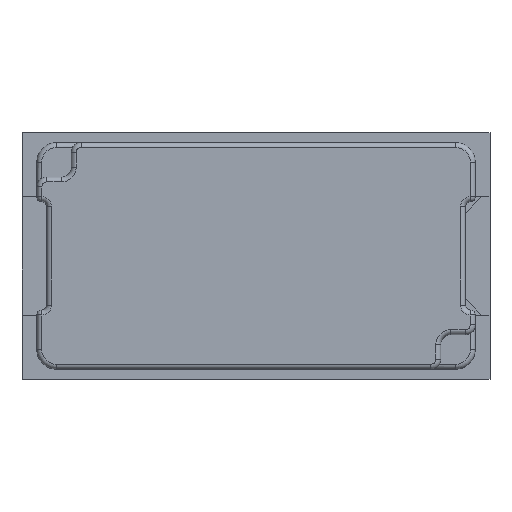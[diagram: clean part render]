
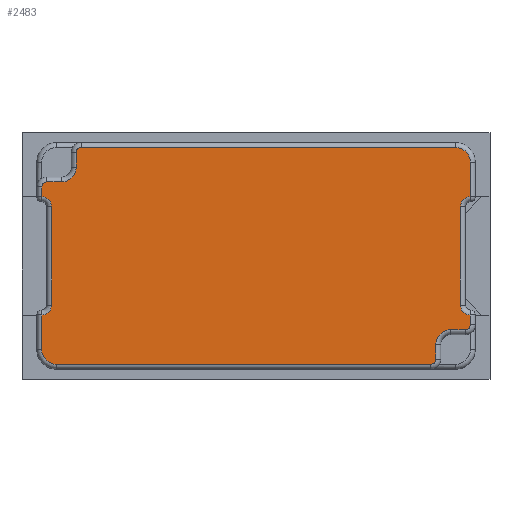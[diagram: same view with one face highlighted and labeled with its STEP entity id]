
A CAD part, top view. The second image highlights one B-rep face of the part: STEP entity #2483.
In plain terms, the highlighted planar face has unit normal (0, 0, 1).
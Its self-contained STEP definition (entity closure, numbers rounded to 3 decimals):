
#106=CIRCLE('',#2585,0.2);
#111=CIRCLE('',#2593,0.1);
#114=CIRCLE('',#2598,0.3);
#117=CIRCLE('',#2603,0.1);
#120=CIRCLE('',#2608,0.3);
#124=CIRCLE('',#2615,0.2);
#128=CIRCLE('',#2624,0.2);
#133=CIRCLE('',#2630,0.1);
#147=CIRCLE('',#2654,0.3);
#150=CIRCLE('',#2659,0.1);
#153=CIRCLE('',#2664,0.3);
#156=CIRCLE('',#2670,0.2);
#493=ORIENTED_EDGE('',*,*,#888,.T.);
#494=ORIENTED_EDGE('',*,*,#887,.T.);
#495=ORIENTED_EDGE('',*,*,#885,.T.);
#496=ORIENTED_EDGE('',*,*,#882,.T.);
#497=ORIENTED_EDGE('',*,*,#880,.T.);
#498=ORIENTED_EDGE('',*,*,#878,.T.);
#499=ORIENTED_EDGE('',*,*,#892,.T.);
#500=ORIENTED_EDGE('',*,*,#851,.T.);
#501=ORIENTED_EDGE('',*,*,#852,.T.);
#502=ORIENTED_EDGE('',*,*,#846,.F.);
#503=ORIENTED_EDGE('',*,*,#844,.F.);
#504=ORIENTED_EDGE('',*,*,#838,.F.);
#505=ORIENTED_EDGE('',*,*,#834,.T.);
#506=ORIENTED_EDGE('',*,*,#833,.T.);
#507=ORIENTED_EDGE('',*,*,#831,.T.);
#508=ORIENTED_EDGE('',*,*,#829,.T.);
#509=ORIENTED_EDGE('',*,*,#827,.T.);
#510=ORIENTED_EDGE('',*,*,#825,.T.);
#511=ORIENTED_EDGE('',*,*,#823,.T.);
#512=ORIENTED_EDGE('',*,*,#821,.T.);
#513=ORIENTED_EDGE('',*,*,#818,.T.);
#514=ORIENTED_EDGE('',*,*,#815,.T.);
#515=ORIENTED_EDGE('',*,*,#814,.T.);
#516=ORIENTED_EDGE('',*,*,#891,.T.);
#814=EDGE_CURVE('',#1038,#1040,#1202,.T.);
#815=EDGE_CURVE('',#1041,#1038,#106,.T.);
#818=EDGE_CURVE('',#1042,#1041,#1203,.T.);
#821=EDGE_CURVE('',#1043,#1042,#111,.T.);
#823=EDGE_CURVE('',#1044,#1043,#1204,.T.);
#825=EDGE_CURVE('',#1045,#1044,#114,.T.);
#827=EDGE_CURVE('',#1046,#1045,#1205,.T.);
#829=EDGE_CURVE('',#1047,#1046,#117,.T.);
#831=EDGE_CURVE('',#1048,#1047,#1206,.T.);
#833=EDGE_CURVE('',#1049,#1048,#120,.T.);
#834=EDGE_CURVE('',#1050,#1049,#1207,.T.);
#838=EDGE_CURVE('',#1050,#1052,#124,.T.);
#844=EDGE_CURVE('',#1052,#1054,#1211,.T.);
#846=EDGE_CURVE('',#1054,#1055,#128,.T.);
#851=EDGE_CURVE('',#1056,#1059,#133,.T.);
#852=EDGE_CURVE('',#1059,#1055,#1212,.T.);
#878=EDGE_CURVE('',#1074,#1075,#147,.T.);
#880=EDGE_CURVE('',#1076,#1074,#1224,.T.);
#882=EDGE_CURVE('',#1077,#1076,#150,.T.);
#885=EDGE_CURVE('',#1078,#1077,#1226,.T.);
#887=EDGE_CURVE('',#1079,#1078,#153,.T.);
#888=EDGE_CURVE('',#1080,#1079,#1227,.T.);
#891=EDGE_CURVE('',#1040,#1080,#156,.T.);
#892=EDGE_CURVE('',#1075,#1056,#1228,.T.);
#1038=VERTEX_POINT('',#3530);
#1040=VERTEX_POINT('',#3534);
#1041=VERTEX_POINT('',#3538);
#1042=VERTEX_POINT('',#3544);
#1043=VERTEX_POINT('',#3548);
#1044=VERTEX_POINT('',#3552);
#1045=VERTEX_POINT('',#3556);
#1046=VERTEX_POINT('',#3560);
#1047=VERTEX_POINT('',#3564);
#1048=VERTEX_POINT('',#3568);
#1049=VERTEX_POINT('',#3572);
#1050=VERTEX_POINT('',#3576);
#1052=VERTEX_POINT('',#3584);
#1054=VERTEX_POINT('',#3596);
#1055=VERTEX_POINT('',#3600);
#1056=VERTEX_POINT('',#3604);
#1059=VERTEX_POINT('',#3609);
#1074=VERTEX_POINT('',#3670);
#1075=VERTEX_POINT('',#3672);
#1076=VERTEX_POINT('',#3676);
#1077=VERTEX_POINT('',#3680);
#1078=VERTEX_POINT('',#3684);
#1079=VERTEX_POINT('',#3689);
#1080=VERTEX_POINT('',#3693);
#1202=LINE('',#3535,#1376);
#1203=LINE('',#3543,#1377);
#1204=LINE('',#3553,#1378);
#1205=LINE('',#3561,#1379);
#1206=LINE('',#3569,#1380);
#1207=LINE('',#3575,#1381);
#1211=LINE('',#3595,#1385);
#1212=LINE('',#3612,#1386);
#1224=LINE('',#3677,#1398);
#1226=LINE('',#3686,#1400);
#1227=LINE('',#3692,#1401);
#1228=LINE('',#3700,#1402);
#1376=VECTOR('',#2935,1000.);
#1377=VECTOR('',#2948,1000.);
#1378=VECTOR('',#2961,1000.);
#1379=VECTOR('',#2972,1000.);
#1380=VECTOR('',#2983,1000.);
#1381=VECTOR('',#2992,1000.);
#1385=VECTOR('',#3020,1000.);
#1386=VECTOR('',#3041,1000.);
#1398=VECTOR('',#3103,1000.);
#1400=VECTOR('',#3115,1000.);
#1401=VECTOR('',#3124,1000.);
#1402=VECTOR('',#3137,1000.);
#1513=EDGE_LOOP('',(#493,#494,#495,#496,#497,#498,#499,#500,#501,#502,#503,
#504,#505,#506,#507,#508,#509,#510,#511,#512,#513,#514,#515,#516));
#1615=FACE_BOUND('',#1513,.T.);
#1669=PLANE('',#2671);
#2483=ADVANCED_FACE('',(#1615),#1669,.F.);
#2585=AXIS2_PLACEMENT_3D('',#3537,#2938,#2939);
#2593=AXIS2_PLACEMENT_3D('',#3549,#2955,#2956);
#2598=AXIS2_PLACEMENT_3D('',#3557,#2966,#2967);
#2603=AXIS2_PLACEMENT_3D('',#3565,#2977,#2978);
#2608=AXIS2_PLACEMENT_3D('',#3573,#2988,#2989);
#2615=AXIS2_PLACEMENT_3D('',#3583,#3003,#3004);
#2624=AXIS2_PLACEMENT_3D('',#3599,#3025,#3026);
#2630=AXIS2_PLACEMENT_3D('',#3610,#3037,#3038);
#2654=AXIS2_PLACEMENT_3D('',#3673,#3097,#3098);
#2659=AXIS2_PLACEMENT_3D('',#3681,#3108,#3109);
#2664=AXIS2_PLACEMENT_3D('',#3690,#3120,#3121);
#2670=AXIS2_PLACEMENT_3D('',#3698,#3133,#3134);
#2671=AXIS2_PLACEMENT_3D('',#3699,#3135,#3136);
#2935=DIRECTION('',(0.,1.,0.));
#2938=DIRECTION('',(0.,0.,-1.));
#2939=DIRECTION('',(0.,-1.,0.));
#2948=DIRECTION('',(0.,1.,0.));
#2955=DIRECTION('',(0.,0.,1.));
#2956=DIRECTION('',(0.,-1.,0.));
#2961=DIRECTION('',(1.,0.,0.));
#2966=DIRECTION('',(0.,0.,-1.));
#2967=DIRECTION('',(-1.,0.,0.));
#2972=DIRECTION('',(0.,1.,0.));
#2977=DIRECTION('',(0.,0.,1.));
#2978=DIRECTION('',(0.,-1.,0.));
#2983=DIRECTION('',(1.,0.,0.));
#2988=DIRECTION('',(0.,0.,1.));
#2989=DIRECTION('',(-1.,0.,0.));
#2992=DIRECTION('',(0.,-1.,0.));
#3003=DIRECTION('',(0.,0.,1.));
#3004=DIRECTION('',(0.,-1.,0.));
#3020=DIRECTION('',(0.,1.,0.));
#3025=DIRECTION('',(0.,0.,1.));
#3026=DIRECTION('',(1.,0.,0.));
#3037=DIRECTION('',(0.,0.,1.));
#3038=DIRECTION('',(0.,1.,0.));
#3041=DIRECTION('',(0.,-1.,0.));
#3097=DIRECTION('',(0.,0.,-1.));
#3098=DIRECTION('',(1.,0.,0.));
#3103=DIRECTION('',(0.,-1.,0.));
#3108=DIRECTION('',(0.,0.,1.));
#3109=DIRECTION('',(0.,1.,0.));
#3115=DIRECTION('',(-1.,0.,0.));
#3120=DIRECTION('',(0.,0.,1.));
#3121=DIRECTION('',(1.,0.,0.));
#3124=DIRECTION('',(0.,1.,0.));
#3133=DIRECTION('',(0.,0.,-1.));
#3134=DIRECTION('',(-1.,0.,0.));
#3135=DIRECTION('',(0.,0.,-1.));
#3136=DIRECTION('',(-1.,0.,0.));
#3137=DIRECTION('',(-1.,0.,0.));
#3530=CARTESIAN_POINT('',(4.15,-1.,1.7));
#3534=CARTESIAN_POINT('',(4.15,1.,1.7));
#3535=CARTESIAN_POINT('',(4.15,-1.,1.7));
#3537=CARTESIAN_POINT('',(4.35,-1.,1.7));
#3538=CARTESIAN_POINT('',(4.35,-1.2,1.7));
#3543=CARTESIAN_POINT('',(4.35,-1.4,1.7));
#3544=CARTESIAN_POINT('',(4.35,-1.4,1.7));
#3548=CARTESIAN_POINT('',(4.25,-1.5,1.7));
#3549=CARTESIAN_POINT('',(4.25,-1.4,1.7));
#3552=CARTESIAN_POINT('',(3.95,-1.5,1.7));
#3553=CARTESIAN_POINT('',(3.95,-1.5,1.7));
#3556=CARTESIAN_POINT('',(3.65,-1.8,1.7));
#3557=CARTESIAN_POINT('',(3.95,-1.8,1.7));
#3560=CARTESIAN_POINT('',(3.65,-2.1,1.7));
#3561=CARTESIAN_POINT('',(3.65,-2.1,1.7));
#3564=CARTESIAN_POINT('',(3.55,-2.2,1.7));
#3565=CARTESIAN_POINT('',(3.55,-2.1,1.7));
#3568=CARTESIAN_POINT('',(-4.05,-2.2,1.7));
#3569=CARTESIAN_POINT('',(-4.05,-2.2,1.7));
#3572=CARTESIAN_POINT('',(-4.35,-1.9,1.7));
#3573=CARTESIAN_POINT('',(-4.05,-1.9,1.7));
#3575=CARTESIAN_POINT('',(-4.35,-1.2,1.7));
#3576=CARTESIAN_POINT('',(-4.35,-1.2,1.7));
#3583=CARTESIAN_POINT('',(-4.35,-1.,1.7));
#3584=CARTESIAN_POINT('',(-4.15,-1.,1.7));
#3595=CARTESIAN_POINT('',(-4.15,-1.,1.7));
#3596=CARTESIAN_POINT('',(-4.15,1.,1.7));
#3599=CARTESIAN_POINT('',(-4.35,1.,1.7));
#3600=CARTESIAN_POINT('',(-4.35,1.2,1.7));
#3604=CARTESIAN_POINT('',(-4.25,1.5,1.7));
#3609=CARTESIAN_POINT('',(-4.35,1.4,1.7));
#3610=CARTESIAN_POINT('',(-4.25,1.4,1.7));
#3612=CARTESIAN_POINT('',(-4.35,1.4,1.7));
#3670=CARTESIAN_POINT('',(-3.65,1.8,1.7));
#3672=CARTESIAN_POINT('',(-3.95,1.5,1.7));
#3673=CARTESIAN_POINT('',(-3.95,1.8,1.7));
#3676=CARTESIAN_POINT('',(-3.65,2.1,1.7));
#3677=CARTESIAN_POINT('',(-3.65,2.1,1.7));
#3680=CARTESIAN_POINT('',(-3.55,2.2,1.7));
#3681=CARTESIAN_POINT('',(-3.55,2.1,1.7));
#3684=CARTESIAN_POINT('',(4.05,2.2,1.7));
#3686=CARTESIAN_POINT('',(4.05,2.2,1.7));
#3689=CARTESIAN_POINT('',(4.35,1.9,1.7));
#3690=CARTESIAN_POINT('',(4.05,1.9,1.7));
#3692=CARTESIAN_POINT('',(4.35,1.2,1.7));
#3693=CARTESIAN_POINT('',(4.35,1.2,1.7));
#3698=CARTESIAN_POINT('',(4.35,1.,1.7));
#3699=CARTESIAN_POINT('',(0.,0.,1.7));
#3700=CARTESIAN_POINT('',(-3.95,1.5,1.7));
